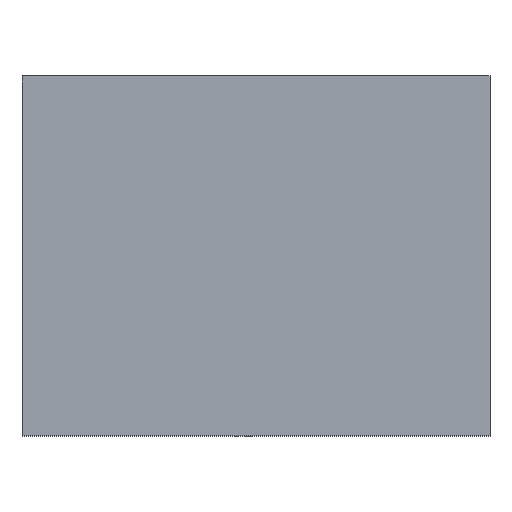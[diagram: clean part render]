
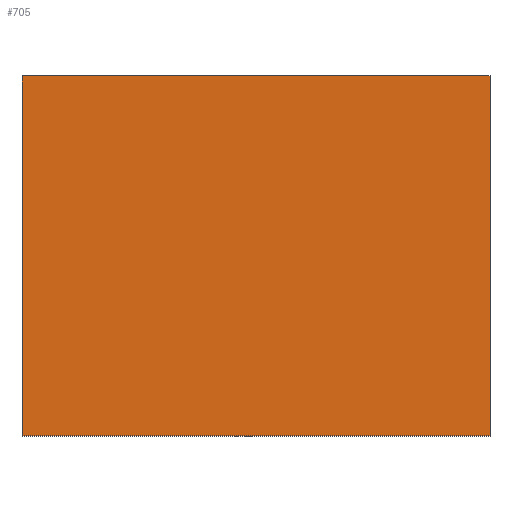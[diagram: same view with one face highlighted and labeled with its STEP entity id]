
A CAD part, top view. The second image highlights one B-rep face of the part: STEP entity #705.
In plain terms, the highlighted planar face has unit normal (0, 0, 1).
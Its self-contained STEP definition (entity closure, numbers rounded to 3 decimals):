
#399=FACE_OUTER_BOUND('',#2842,.T.);
#705=ADVANCED_FACE('',(#399),#1311,.T.);
#1311=PLANE('',#7093);
#1617=LINE('',#11032,#1629);
#1620=LINE('',#11038,#1632);
#1622=LINE('',#11042,#1634);
#1623=LINE('',#11044,#1635);
#1629=VECTOR('',#8603,1.);
#1632=VECTOR('',#8608,1.);
#1634=VECTOR('',#8612,1.);
#1635=VECTOR('',#8615,1.);
#2842=EDGE_LOOP('',(#4063,#4064,#4065,#4066));
#4063=ORIENTED_EDGE('',*,*,#5880,.T.);
#4064=ORIENTED_EDGE('',*,*,#5883,.T.);
#4065=ORIENTED_EDGE('',*,*,#5885,.T.);
#4066=ORIENTED_EDGE('',*,*,#5886,.T.);
#5271=VERTEX_POINT('',#11031);
#5272=VERTEX_POINT('',#11033);
#5273=VERTEX_POINT('',#11037);
#5274=VERTEX_POINT('',#11041);
#5880=EDGE_CURVE('',#5272,#5271,#1617,.T.);
#5883=EDGE_CURVE('',#5271,#5273,#1620,.T.);
#5885=EDGE_CURVE('',#5273,#5274,#1622,.T.);
#5886=EDGE_CURVE('',#5274,#5272,#1623,.T.);
#7093=AXIS2_PLACEMENT_3D('',#11046,#8618,#8619);
#8603=DIRECTION('',(-1.,0.,0.));
#8608=DIRECTION('',(0.,-1.,0.));
#8612=DIRECTION('',(1.,0.,0.));
#8615=DIRECTION('',(0.,1.,0.));
#8618=DIRECTION('',(0.,0.,1.));
#8619=DIRECTION('',(-1.,0.,0.));
#11031=CARTESIAN_POINT('',(2.2,101.2,5.));
#11032=CARTESIAN_POINT('',(132.2,101.2,5.));
#11033=CARTESIAN_POINT('',(132.2,101.2,5.));
#11037=CARTESIAN_POINT('',(2.2,1.2,5.));
#11038=CARTESIAN_POINT('',(2.2,101.2,5.));
#11041=CARTESIAN_POINT('',(132.2,1.2,5.));
#11042=CARTESIAN_POINT('',(2.2,1.2,5.));
#11044=CARTESIAN_POINT('',(132.2,1.2,5.));
#11046=CARTESIAN_POINT('',(0.,0.,5.));
